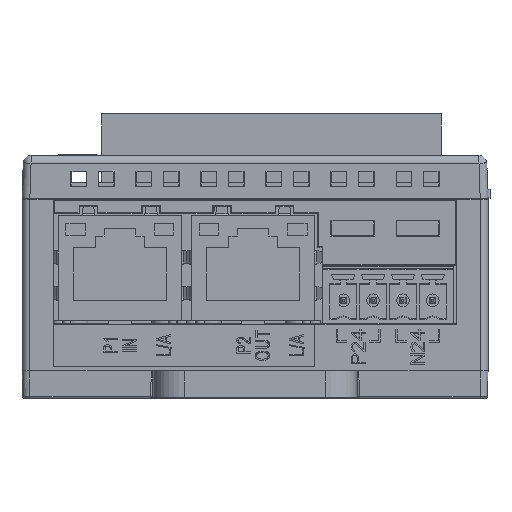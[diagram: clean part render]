
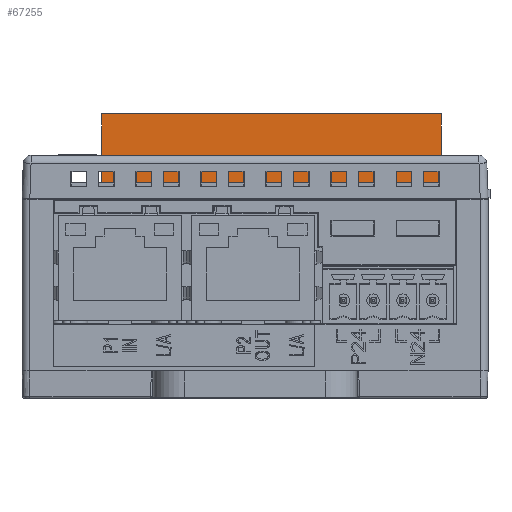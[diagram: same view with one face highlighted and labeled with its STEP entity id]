
A CAD part, front view. The second image highlights one B-rep face of the part: STEP entity #67255.
In plain terms, the highlighted planar face has unit normal (0, -1, 0).
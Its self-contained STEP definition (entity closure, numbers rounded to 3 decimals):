
#1937=DIRECTION('',(1.,0.,0.));
#1938=VECTOR('',#1937,43.3);
#1939=CARTESIAN_POINT('',(-19.55,-19.15,27.5));
#1940=LINE('',#1939,#1938);
#4373=DIRECTION('',(0.,0.,-1.));
#4374=VECTOR('',#4373,8.8);
#4375=CARTESIAN_POINT('',(23.75,-19.15,36.3));
#4376=LINE('',#4375,#4374);
#4381=DIRECTION('',(0.,0.,-1.));
#4382=VECTOR('',#4381,8.8);
#4383=CARTESIAN_POINT('',(-19.55,-19.15,36.3));
#4384=LINE('',#4383,#4382);
#4385=DIRECTION('',(-1.,0.,0.));
#4386=VECTOR('',#4385,43.3);
#4387=CARTESIAN_POINT('',(23.75,-19.15,36.3));
#4388=LINE('',#4387,#4386);
#49362=CARTESIAN_POINT('',(-19.55,-19.15,36.3));
#49364=VERTEX_POINT('',#49362);
#49368=CARTESIAN_POINT('',(23.75,-19.15,36.3));
#49369=VERTEX_POINT('',#49368);
#61242=CARTESIAN_POINT('',(-19.55,-19.15,27.5));
#61244=VERTEX_POINT('',#61242);
#61245=CARTESIAN_POINT('',(23.75,-19.15,27.5));
#61246=VERTEX_POINT('',#61245);
#67243=CARTESIAN_POINT('',(2.1,-19.15,31.7));
#67244=DIRECTION('',(0.,1.,0.));
#67245=DIRECTION('',(1.,0.,0.));
#67246=AXIS2_PLACEMENT_3D('',#67243,#67244,#67245);
#67247=PLANE('',#67246);
#67248=ORIENTED_EDGE('',*,*,#63400,.F.);
#67249=ORIENTED_EDGE('',*,*,#67189,.F.);
#67251=ORIENTED_EDGE('',*,*,#67250,.F.);
#67252=ORIENTED_EDGE('',*,*,#67228,.T.);
#67253=EDGE_LOOP('',(#67248,#67249,#67251,#67252));
#67254=FACE_OUTER_BOUND('',#67253,.F.);
#67255=ADVANCED_FACE('',(#67254),#67247,.F.);
#63400=EDGE_CURVE('',#61244,#61246,#1940,.T.);
#67189=EDGE_CURVE('',#49364,#61244,#4384,.T.);
#67228=EDGE_CURVE('',#49369,#61246,#4376,.T.);
#67250=EDGE_CURVE('',#49369,#49364,#4388,.T.);
